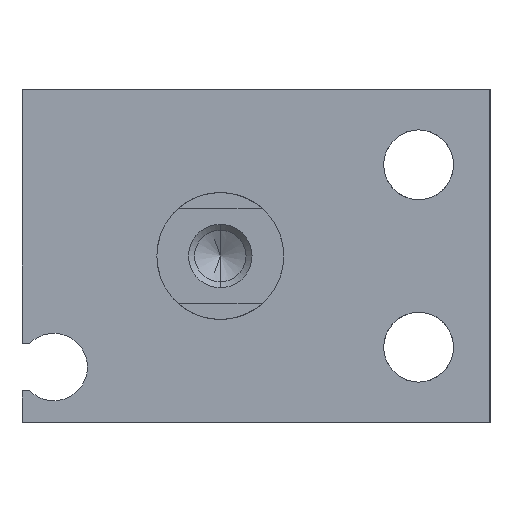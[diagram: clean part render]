
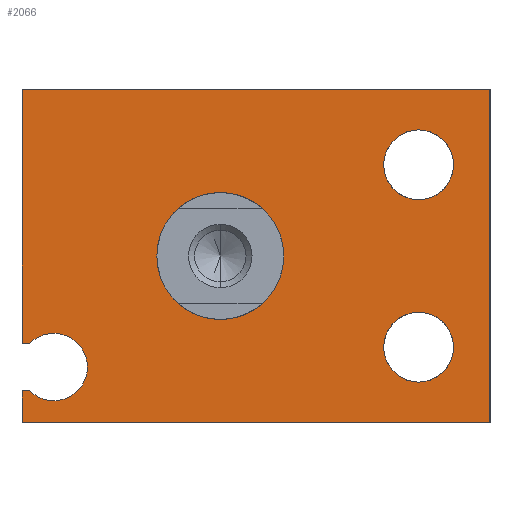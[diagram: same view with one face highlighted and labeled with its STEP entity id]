
A CAD part, left-side view. The second image highlights one B-rep face of the part: STEP entity #2066.
In plain terms, the highlighted planar face has unit normal (-1, 0, 0).
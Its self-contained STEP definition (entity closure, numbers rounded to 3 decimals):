
#2 = ORIENTED_EDGE ( 'NONE', *, *, #40, .F. ) ;
#23 = AXIS2_PLACEMENT_3D ( 'NONE', #1300, #1095, #1314 ) ;
#31 = CARTESIAN_POINT ( 'NONE',  ( 0., -17., -10.5 ) ) ;
#40 = EDGE_CURVE ( 'NONE', #1692, #912, #1609, .T. ) ;
#64 = CARTESIAN_POINT ( 'NONE',  ( 0., -12.5, -5.75 ) ) ;
#76 = DIRECTION ( 'NONE',  ( 0., 1., 0. ) ) ;
#91 = CARTESIAN_POINT ( 'NONE',  ( 0., -17., 10.5 ) ) ;
#128 = EDGE_CURVE ( 'NONE', #3012, #3013, #2215, .T. ) ;
#129 = VECTOR ( 'NONE', #317, 1000. ) ;
#208 = CARTESIAN_POINT ( 'NONE',  ( 0., -17., -10.5 ) ) ;
#246 = CARTESIAN_POINT ( 'NONE',  ( 0., 12.5, -10.5 ) ) ;
#263 = CARTESIAN_POINT ( 'NONE',  ( 0., 12.5, 10.5 ) ) ;
#310 = CARTESIAN_POINT ( 'NONE',  ( 0., 10.5, -7. ) ) ;
#316 = CARTESIAN_POINT ( 'NONE',  ( 0., 12.5, -8.5 ) ) ;
#317 = DIRECTION ( 'NONE',  ( 0., 0., 1. ) ) ;
#333 = CARTESIAN_POINT ( 'NONE',  ( 0., 10.5, -7. ) ) ;
#384 = EDGE_CURVE ( 'NONE', #2520, #1444, #2491, .T. ) ;
#428 = CIRCLE ( 'NONE', #2899, 2.2 ) ;
#493 = AXIS2_PLACEMENT_3D ( 'NONE', #2923, #760, #1726 ) ;
#506 = EDGE_LOOP ( 'NONE', ( #2, #603 ) ) ;
#517 = CARTESIAN_POINT ( 'NONE',  ( 0., -12.5, 5.75 ) ) ;
#568 = DIRECTION ( 'NONE',  ( 0., 0., 1. ) ) ;
#575 = EDGE_CURVE ( 'NONE', #884, #2312, #1799, .T. ) ;
#603 = ORIENTED_EDGE ( 'NONE', *, *, #949, .F. ) ;
#604 = DIRECTION ( 'NONE',  ( 0., 0., 1. ) ) ;
#629 = VERTEX_POINT ( 'NONE', #2023 ) ;
#640 = AXIS2_PLACEMENT_3D ( 'NONE', #310, #2485, #774 ) ;
#650 = DIRECTION ( 'NONE',  ( 0., 0., -1. ) ) ;
#711 = CARTESIAN_POINT ( 'NONE',  ( 0., 0., 4. ) ) ;
#760 = DIRECTION ( 'NONE',  ( -1., 0., 0. ) ) ;
#774 = DIRECTION ( 'NONE',  ( 0., 0., 1. ) ) ;
#801 = FACE_BOUND ( 'NONE', #2493, .T. ) ;
#831 = FACE_OUTER_BOUND ( 'NONE', #2615, .T. ) ;
#835 = VECTOR ( 'NONE', #2313, 1000. ) ;
#856 = ORIENTED_EDGE ( 'NONE', *, *, #575, .T. ) ;
#882 = EDGE_CURVE ( 'NONE', #1586, #2995, #2213, .T. ) ;
#884 = VERTEX_POINT ( 'NONE', #246 ) ;
#885 = CARTESIAN_POINT ( 'NONE',  ( 0., -17., 10.5 ) ) ;
#912 = VERTEX_POINT ( 'NONE', #2671 ) ;
#949 = EDGE_CURVE ( 'NONE', #912, #1692, #2439, .T. ) ;
#974 = ORIENTED_EDGE ( 'NONE', *, *, #2063, .T. ) ;
#982 = VECTOR ( 'NONE', #1785, 1000. ) ;
#1000 = LINE ( 'NONE', #31, #129 ) ;
#1036 = CARTESIAN_POINT ( 'NONE',  ( 0., 0., 0. ) ) ;
#1042 = EDGE_CURVE ( 'NONE', #2526, #629, #1377, .T. ) ;
#1047 = DIRECTION ( 'NONE',  ( -1., 0., 0. ) ) ;
#1049 = AXIS2_PLACEMENT_3D ( 'NONE', #2143, #2869, #1398 ) ;
#1059 = DIRECTION ( 'NONE',  ( 0., -1., 0. ) ) ;
#1071 = EDGE_CURVE ( 'NONE', #1444, #2520, #428, .T. ) ;
#1081 = VERTEX_POINT ( 'NONE', #2020 ) ;
#1088 = CARTESIAN_POINT ( 'NONE',  ( 0., -12.5, 7.95 ) ) ;
#1095 = DIRECTION ( 'NONE',  ( -1., 0., 0. ) ) ;
#1251 = EDGE_CURVE ( 'NONE', #2526, #1366, #1770, .T. ) ;
#1262 = DIRECTION ( 'NONE',  ( 0., 0., 1. ) ) ;
#1264 = CARTESIAN_POINT ( 'NONE',  ( 0., 12.5, -10.5 ) ) ;
#1279 = AXIS2_PLACEMENT_3D ( 'NONE', #333, #2950, #568 ) ;
#1290 = CARTESIAN_POINT ( 'NONE',  ( 0., 10.5, -4.875 ) ) ;
#1300 = CARTESIAN_POINT ( 'NONE',  ( 0., 10.5, -7. ) ) ;
#1314 = DIRECTION ( 'NONE',  ( 0., 0., 1. ) ) ;
#1342 = CARTESIAN_POINT ( 'NONE',  ( 0., 12.005, -8.5 ) ) ;
#1366 = VERTEX_POINT ( 'NONE', #316 ) ;
#1377 = CIRCLE ( 'NONE', #1279, 2.125 ) ;
#1398 = DIRECTION ( 'NONE',  ( 0., 0., 1. ) ) ;
#1438 = ORIENTED_EDGE ( 'NONE', *, *, #384, .F. ) ;
#1444 = VERTEX_POINT ( 'NONE', #1760 ) ;
#1457 = ORIENTED_EDGE ( 'NONE', *, *, #1849, .T. ) ;
#1478 = DIRECTION ( 'NONE',  ( -1., 0., 0. ) ) ;
#1536 = VECTOR ( 'NONE', #1713, 1000. ) ;
#1544 = CIRCLE ( 'NONE', #3048, 2.125 ) ;
#1560 = EDGE_CURVE ( 'NONE', #629, #2140, #2737, .T. ) ;
#1567 = ORIENTED_EDGE ( 'NONE', *, *, #2099, .T. ) ;
#1586 = VERTEX_POINT ( 'NONE', #2275 ) ;
#1609 = CIRCLE ( 'NONE', #1049, 2.2 ) ;
#1692 = VERTEX_POINT ( 'NONE', #1088 ) ;
#1713 = DIRECTION ( 'NONE',  ( 0., -1., 0. ) ) ;
#1726 = DIRECTION ( 'NONE',  ( 0., 0., 1. ) ) ;
#1739 = FACE_BOUND ( 'NONE', #506, .T. ) ;
#1751 = PLANE ( 'NONE',  #640 ) ;
#1760 = CARTESIAN_POINT ( 'NONE',  ( 0., -12.5, -3.55 ) ) ;
#1765 = ORIENTED_EDGE ( 'NONE', *, *, #2854, .T. ) ;
#1768 = EDGE_CURVE ( 'NONE', #2140, #2995, #1544, .T. ) ;
#1770 = LINE ( 'NONE', #1342, #982 ) ;
#1785 = DIRECTION ( 'NONE',  ( 0., 1., 0. ) ) ;
#1799 = LINE ( 'NONE', #1264, #1842 ) ;
#1842 = VECTOR ( 'NONE', #1059, 1000. ) ;
#1849 = EDGE_CURVE ( 'NONE', #1366, #884, #2105, .T. ) ;
#1851 = CARTESIAN_POINT ( 'NONE',  ( 0., -12.5, -7.95 ) ) ;
#1889 = CARTESIAN_POINT ( 'NONE',  ( 0., 12.005, -5.5 ) ) ;
#2009 = CARTESIAN_POINT ( 'NONE',  ( 0., 0., 0. ) ) ;
#2020 = CARTESIAN_POINT ( 'NONE',  ( 0., 12.5, 10.5 ) ) ;
#2023 = CARTESIAN_POINT ( 'NONE',  ( 0., 10.5, -9.125 ) ) ;
#2048 = DIRECTION ( 'NONE',  ( 1., 0., 0. ) ) ;
#2051 = CIRCLE ( 'NONE', #2450, 4. ) ;
#2062 = AXIS2_PLACEMENT_3D ( 'NONE', #1036, #2048, #2263 ) ;
#2063 = EDGE_CURVE ( 'NONE', #2518, #1081, #2951, .T. ) ;
#2066 = ADVANCED_FACE ( 'NONE', ( #831, #2228, #801, #1739 ), #1751, .T. ) ;
#2099 = EDGE_CURVE ( 'NONE', #3013, #3012, #2051, .T. ) ;
#2105 = LINE ( 'NONE', #2369, #2298 ) ;
#2107 = ORIENTED_EDGE ( 'NONE', *, *, #1251, .T. ) ;
#2110 = CARTESIAN_POINT ( 'NONE',  ( 0., 0., -4. ) ) ;
#2124 = ORIENTED_EDGE ( 'NONE', *, *, #1042, .F. ) ;
#2140 = VERTEX_POINT ( 'NONE', #1290 ) ;
#2143 = CARTESIAN_POINT ( 'NONE',  ( 0., -12.5, 5.75 ) ) ;
#2156 = VECTOR ( 'NONE', #76, 1000. ) ;
#2213 = LINE ( 'NONE', #2378, #1536 ) ;
#2214 = DIRECTION ( 'NONE',  ( 0., 0., -1. ) ) ;
#2215 = CIRCLE ( 'NONE', #2062, 4. ) ;
#2228 = FACE_BOUND ( 'NONE', #2572, .T. ) ;
#2241 = CARTESIAN_POINT ( 'NONE',  ( 0., 10.5, -7. ) ) ;
#2263 = DIRECTION ( 'NONE',  ( 0., 0., -1. ) ) ;
#2264 = DIRECTION ( 'NONE',  ( -1., 0., 0. ) ) ;
#2275 = CARTESIAN_POINT ( 'NONE',  ( 0., 12.5, -5.5 ) ) ;
#2298 = VECTOR ( 'NONE', #650, 1000. ) ;
#2312 = VERTEX_POINT ( 'NONE', #208 ) ;
#2313 = DIRECTION ( 'NONE',  ( 0., 0., -1. ) ) ;
#2329 = ORIENTED_EDGE ( 'NONE', *, *, #2714, .T. ) ;
#2352 = ORIENTED_EDGE ( 'NONE', *, *, #1071, .F. ) ;
#2369 = CARTESIAN_POINT ( 'NONE',  ( 0., 12.5, -8.5 ) ) ;
#2378 = CARTESIAN_POINT ( 'NONE',  ( 0., 12.5, -5.5 ) ) ;
#2429 = DIRECTION ( 'NONE',  ( 0., 0., 1. ) ) ;
#2439 = CIRCLE ( 'NONE', #2782, 2.2 ) ;
#2450 = AXIS2_PLACEMENT_3D ( 'NONE', #2009, #2967, #2214 ) ;
#2477 = ORIENTED_EDGE ( 'NONE', *, *, #128, .T. ) ;
#2485 = DIRECTION ( 'NONE',  ( -1., 0., 0. ) ) ;
#2491 = CIRCLE ( 'NONE', #493, 2.2 ) ;
#2493 = EDGE_LOOP ( 'NONE', ( #2352, #1438 ) ) ;
#2518 = VERTEX_POINT ( 'NONE', #885 ) ;
#2520 = VERTEX_POINT ( 'NONE', #1851 ) ;
#2526 = VERTEX_POINT ( 'NONE', #2806 ) ;
#2541 = ORIENTED_EDGE ( 'NONE', *, *, #882, .T. ) ;
#2572 = EDGE_LOOP ( 'NONE', ( #1567, #2477 ) ) ;
#2615 = EDGE_LOOP ( 'NONE', ( #856, #1765, #974, #2329, #2541, #2977, #2791, #2124, #2107, #1457 ) ) ;
#2671 = CARTESIAN_POINT ( 'NONE',  ( 0., -12.5, 3.55 ) ) ;
#2714 = EDGE_CURVE ( 'NONE', #1081, #1586, #3108, .T. ) ;
#2737 = CIRCLE ( 'NONE', #23, 2.125 ) ;
#2782 = AXIS2_PLACEMENT_3D ( 'NONE', #517, #1478, #2429 ) ;
#2791 = ORIENTED_EDGE ( 'NONE', *, *, #1560, .F. ) ;
#2806 = CARTESIAN_POINT ( 'NONE',  ( 0., 12.005, -8.5 ) ) ;
#2854 = EDGE_CURVE ( 'NONE', #2312, #2518, #1000, .T. ) ;
#2869 = DIRECTION ( 'NONE',  ( -1., 0., 0. ) ) ;
#2899 = AXIS2_PLACEMENT_3D ( 'NONE', #64, #2264, #1262 ) ;
#2923 = CARTESIAN_POINT ( 'NONE',  ( 0., -12.5, -5.75 ) ) ;
#2950 = DIRECTION ( 'NONE',  ( -1., 0., 0. ) ) ;
#2951 = LINE ( 'NONE', #91, #2156 ) ;
#2967 = DIRECTION ( 'NONE',  ( 1., 0., 0. ) ) ;
#2977 = ORIENTED_EDGE ( 'NONE', *, *, #1768, .F. ) ;
#2995 = VERTEX_POINT ( 'NONE', #1889 ) ;
#3012 = VERTEX_POINT ( 'NONE', #711 ) ;
#3013 = VERTEX_POINT ( 'NONE', #2110 ) ;
#3048 = AXIS2_PLACEMENT_3D ( 'NONE', #2241, #1047, #604 ) ;
#3108 = LINE ( 'NONE', #263, #835 ) ;
